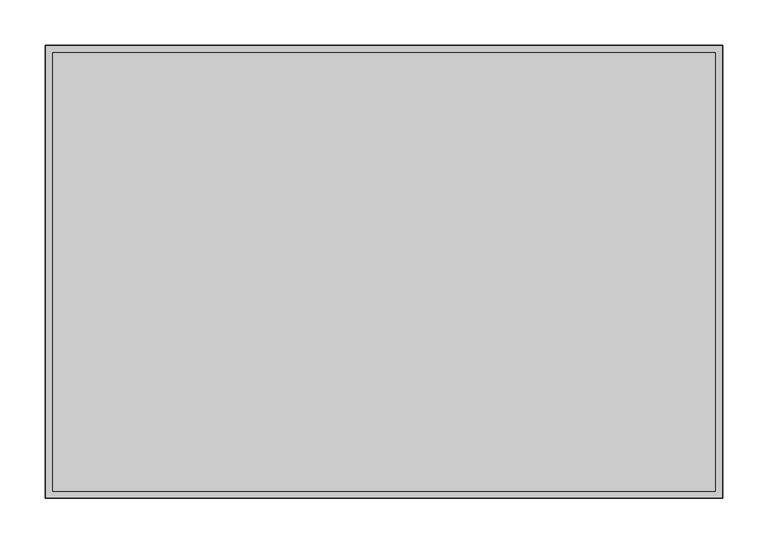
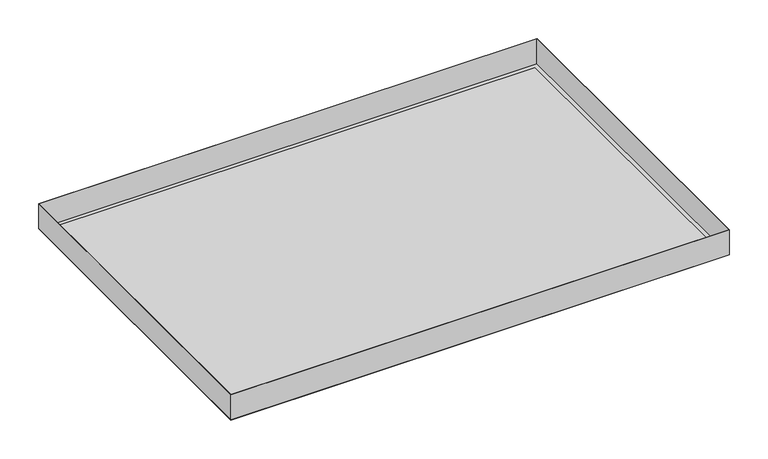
"""IFC4 building model written with IfcOpenShell, lengths in millimetres: proxy geometry, durlum_S5-100_panel : durlum_S5-100_panel_wall_corner."""

from ifc_helpers import new_model, si_unit, frame, origin, origin_with_axes, place, context, project, spatial, polyline, outline, extrude, source, transform, mapped, element, save


def generic_models_72923a4e(model_context):
    return source(origin(), model_context, "Body", "SweptSolid", [
        extrude(outline(polyline([(373.5, 249.75), (373.5, -249.75), (-373.5, -249.75), (-373.5, 249.75), (373.5, 249.75)]), holes=[polyline([(372.9, 249.15), (-372.9, 249.15), (-372.9, -249.15), (372.9, -249.15), (372.9, 249.15)])]), frame((0.0, 0.0, 0.6), z_axis=(0.0, 0.0, 1.0), x_axis=(1.0, 0.0, 0.0)), (0.0, 0.0, 1.0), 39.4),
        extrude(outline(polyline([(365.5, 241.75), (365.5, -241.75), (-365.5, -241.75), (-365.5, 241.75), (365.5, 241.75)])), frame((0.0, 0.0, 0.6), z_axis=(0.0, 0.0, 1.0), x_axis=(1.0, 0.0, 0.0)), (0.0, 0.0, 1.0), 0.6),
        extrude(outline(polyline([(373.5, 249.75), (373.5, -249.75), (-373.5, -249.75), (-373.5, 249.75), (373.5, 249.75)]), holes=[polyline([(365.5, 241.75), (-365.5, 241.75), (-365.5, -241.75), (365.5, -241.75), (365.5, 241.75)])]), origin_with_axes(), (0.0, 0.0, 1.0), 0.6),
        extrude(outline(polyline([(365.5, 241.75), (365.5, -241.75), (-365.5, -241.75), (-365.5, 241.75), (365.5, 241.75)])), origin_with_axes(), (0.0, 0.0, 1.0), 0.6),
    ])


if __name__ == "__main__":
    model = new_model("IFC4")
    model_context = context("Model", 3, world=origin())
    ifc_project = project(units=[si_unit("LENGTHUNIT", "METRE", prefix="MILLI")], contexts=[model_context])
    site = spatial("IfcSite", under=ifc_project)
    building = spatial("IfcBuilding", under=site)
    placement = place(None, origin())
    generic_models_shape = generic_models_72923a4e(model_context)
    element("IfcBuildingElementProxy", 1, Name="durlum_S5-100_panel : durlum_S5-100_panel_wall_corner", ObjectType="durlum_S5-100_panel : durlum_S5-100_panel_wall_corner", at=placement, inside=building, context=model_context, shape_type="MappedRepresentation", body=[
        mapped(generic_models_shape, transform((0.0, 0.0, 0.0), x_axis=(1.0, 0.0, 0.0), y_axis=(0.0, 1.0, 0.0), z_axis=(0.0, 0.0, 1.0))),
    ])
    save(model, "model.ifc")
